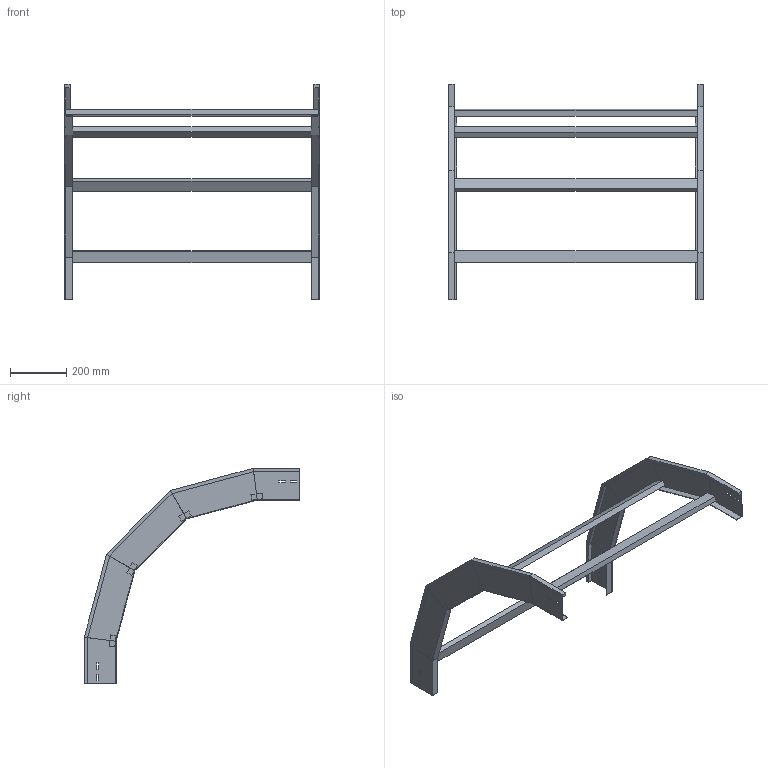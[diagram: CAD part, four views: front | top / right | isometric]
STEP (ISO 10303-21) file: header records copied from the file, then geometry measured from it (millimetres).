
FILE_DESCRIPTION (( 'STEP AP214' ), '1' );
FILE_NAME ('33B5J900.step', '2025-02-21T15:03:21', ( '' ), ( '' ), 'SwSTEP 2.0', 'SolidWorks 2023', '' );
FILE_SCHEMA (( 'AUTOMOTIVE_DESIGN' ));
Length unit declared in the file: millimetre
Products named in the file (3): LONGH.DISCESA_90°_H112.5_R500; TRAVERSINO_900; 33B5J900
Assembly tree (6 placements, depth 2):
  33B5J900
    LONGH.DISCESA_90°_H112.5_R500  x2
    TRAVERSINO_900  x4
Bounding box: 900 x 762.85 x 762.85 mm (x, y, z)
Volume: 4012482 mm3; surface area: 1162603.5 mm2
Topology: 6 solids, 6 shells, 140 faces, 320 edges, 192 vertices
Faces by surface type: plane 140
Entity records: 1872 total; most frequent: CARTESIAN_POINT 309, ORIENTED_EDGE 296, DIRECTION 294, VECTOR 148, LINE 148, EDGE_CURVE 148, VERTEX_POINT 88, AXIS2_PLACEMENT_3D 73
